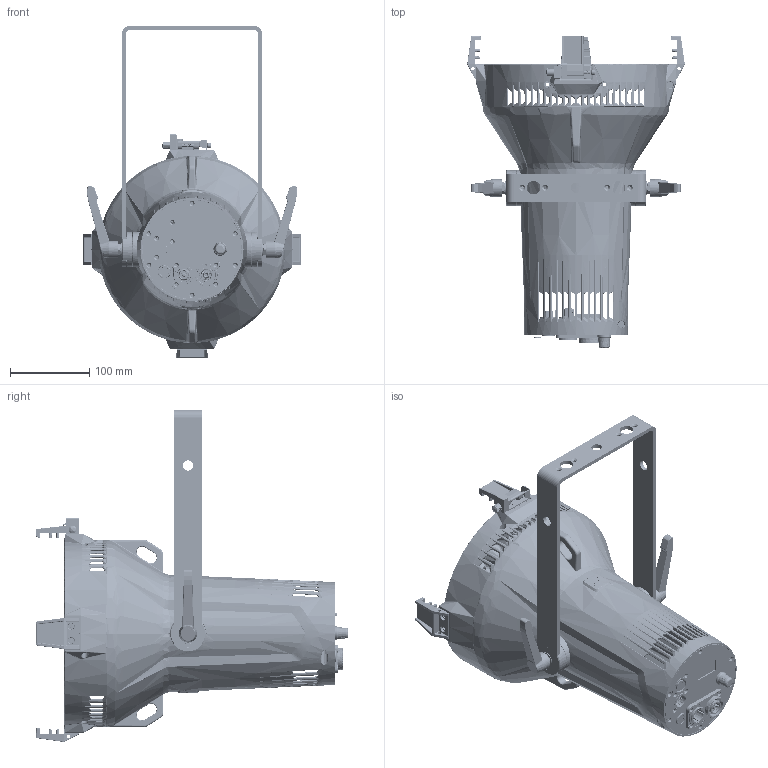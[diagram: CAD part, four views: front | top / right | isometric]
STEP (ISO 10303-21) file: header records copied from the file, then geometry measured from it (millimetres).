
FILE_DESCRIPTION(('HOOPS Exchange Step'),'2;1');
FILE_NAME('E:\cdb\hoops_acs\acs\9788\78319\FINAL\SW_FINAL\014741-4-Light Fixture.step','2024-06-14T11:10:26+02:00',('caddok'),('Unknown organisation'),'HOOPS Exchange 2024.0','HOOPS Exchange','Unknown authorisation');
FILE_SCHEMA( ('AP242_MANAGED_MODEL_BASED_3D_ENGINEERING_MIM_LF {1 0 10303 442 1 1 4 }') );
Length unit declared in the file: millimetre
Products named in the file (2): Standard; 014741-4-Light Fixture
Assembly tree (1 placements, depth 2):
  014741-4-Light Fixture
    Standard
Bounding box: 274.57 x 394.32 x 418.88 mm (x, y, z)
Volume: 544619.6 mm3; surface area: 1442430.4 mm2
Topology: 84 solids, 97 shells, 11867 faces, 30997 edges, 19362 vertices
Faces by surface type: bspline 4376, cylinder 3726, plane 3143, cone 476, extrusion 110, torus 36
Full cylindrical faces by diameter (mm): 0.6 x2, 1 x16, 1.6 x3, 2.2 x2, 2.5 x19, 2.676 x1, 2.8 x22, 2.867 x1, 3 x22, 3.045 x1, 3.2 x5, 3.262 x1, 3.3 x45, 3.5 x40, 4 x76, 4.5 x24, 5.5 x27, 5.8 x4, 6 x2, 6.4 x1, 6.8 x2, 6.9 x1, 7 x5, 7.2 x1, 7.5 x1, 7.6 x1, 7.8 x4, 8 x2, 8.2 x2, 8.5 x2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
Entity records: 1195731 total; most frequent: CARTESIAN_POINT 951712, ORIENTED_EDGE 61496, DIRECTION 33095, EDGE_CURVE 30750, VERTEX_POINT 19358, B_SPLINE_CURVE_WITH_KNOTS 17177, EDGE_LOOP 12628, FACE_BOUND 12628
